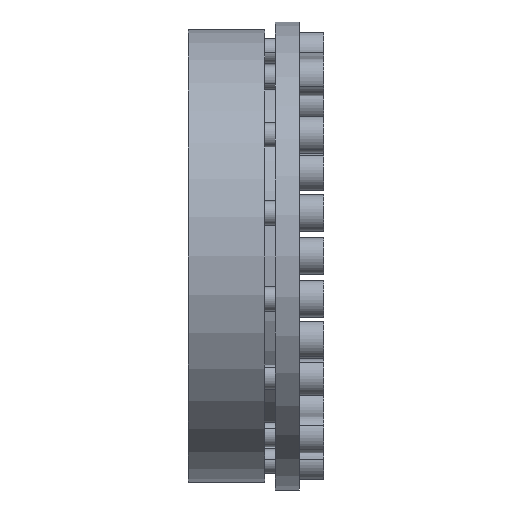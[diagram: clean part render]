
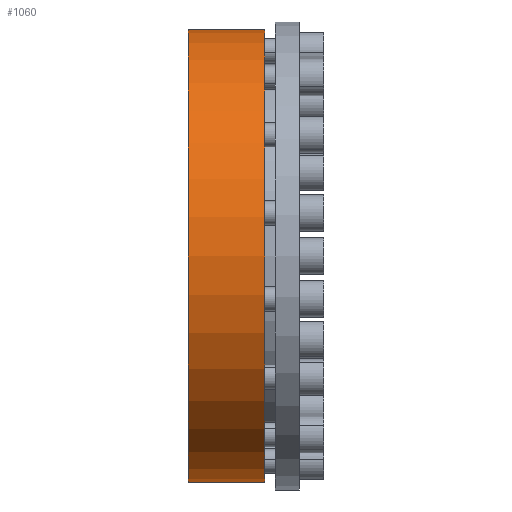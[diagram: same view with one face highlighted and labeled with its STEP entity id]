
A CAD part, front view. The second image highlights one B-rep face of the part: STEP entity #1060.
In plain terms, the highlighted cylindrical face has radius 130 mm (diameter 260 mm), a partial arc.
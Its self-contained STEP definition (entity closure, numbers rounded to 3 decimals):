
#633 = EDGE_CURVE ( 'NONE', #716, #634, #4207, .T. ) ;
#634 = VERTEX_POINT ( 'NONE', #4203 ) ;
#691 = VERTEX_POINT ( 'NONE', #4278 ) ;
#693 = EDGE_CURVE ( 'NONE', #715, #691, #4277, .T. ) ;
#715 = VERTEX_POINT ( 'NONE', #4355 ) ;
#716 = VERTEX_POINT ( 'NONE', #4354 ) ;
#766 = EDGE_CURVE ( 'NONE', #716, #715, #4465, .T. ) ;
#989 = ORIENTED_EDGE ( 'NONE', *, *, #1005, .F. ) ;
#1005 = EDGE_CURVE ( 'NONE', #634, #691, #4834, .T. ) ;
#1060 = ADVANCED_FACE ( 'NONE', ( #4840 ), #4839, .T. ) ;
#1061 = EDGE_LOOP ( 'NONE', ( #1062, #1063, #1064, #989 ) ) ;
#1062 = ORIENTED_EDGE ( 'NONE', *, *, #633, .F. ) ;
#1063 = ORIENTED_EDGE ( 'NONE', *, *, #766, .T. ) ;
#1064 = ORIENTED_EDGE ( 'NONE', *, *, #693, .T. ) ;
#4203 = CARTESIAN_POINT ( 'NONE',  ( -20., 0., 130. ) ) ;
#4204 = DIRECTION ( 'NONE',  ( 1., 0., 0. ) ) ;
#4205 = VECTOR ( 'NONE', #4204, 1000. ) ;
#4206 = CARTESIAN_POINT ( 'NONE',  ( 0., 0., 130. ) ) ;
#4207 = LINE ( 'NONE', #4206, #4205 ) ;
#4274 = DIRECTION ( 'NONE',  ( 1., 0., 0. ) ) ;
#4275 = VECTOR ( 'NONE', #4274, 1000. ) ;
#4276 = CARTESIAN_POINT ( 'NONE',  ( 0., 0., -130. ) ) ;
#4277 = LINE ( 'NONE', #4276, #4275 ) ;
#4278 = CARTESIAN_POINT ( 'NONE',  ( -20., 0., -130. ) ) ;
#4354 = CARTESIAN_POINT ( 'NONE',  ( -64., 0., 130. ) ) ;
#4355 = CARTESIAN_POINT ( 'NONE',  ( -64., 0., -130. ) ) ;
#4461 = DIRECTION ( 'NONE',  ( 0., 0., -1. ) ) ;
#4462 = DIRECTION ( 'NONE',  ( 1., 0., 0. ) ) ;
#4463 = CARTESIAN_POINT ( 'NONE',  ( -64., 0., 0. ) ) ;
#4464 = AXIS2_PLACEMENT_3D ( 'NONE', #4463, #4462, #4461 ) ;
#4465 = CIRCLE ( 'NONE', #4464, 130. ) ;
#4771 = CARTESIAN_POINT ( 'NONE',  ( -20., 0., 0. ) ) ;
#4831 = DIRECTION ( 'NONE',  ( 0., 0., -1. ) ) ;
#4832 = DIRECTION ( 'NONE',  ( 1., 0., 0. ) ) ;
#4833 = AXIS2_PLACEMENT_3D ( 'NONE', #4771, #4832, #4831 ) ;
#4834 = CIRCLE ( 'NONE', #4833, 130. ) ;
#4835 = DIRECTION ( 'NONE',  ( 0., 0., -1. ) ) ;
#4836 = DIRECTION ( 'NONE',  ( 1., 0., 0. ) ) ;
#4837 = AXIS2_PLACEMENT_3D ( 'NONE', #4844, #4836, #4835 ) ;
#4839 = CYLINDRICAL_SURFACE ( 'NONE', #4837, 130. ) ;
#4840 = FACE_OUTER_BOUND ( 'NONE', #1061, .T. ) ;
#4844 = CARTESIAN_POINT ( 'NONE',  ( 0., 0., 0. ) ) ;
